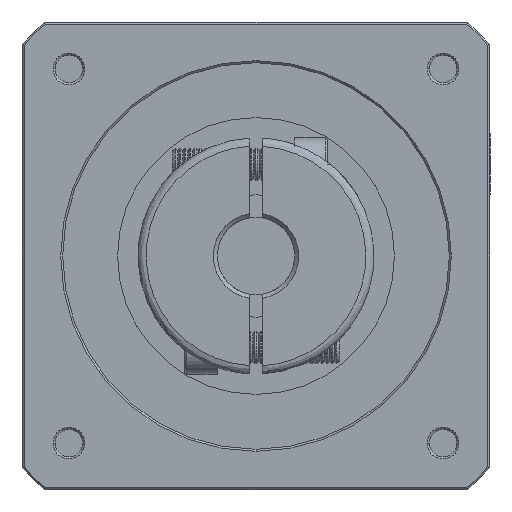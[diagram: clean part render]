
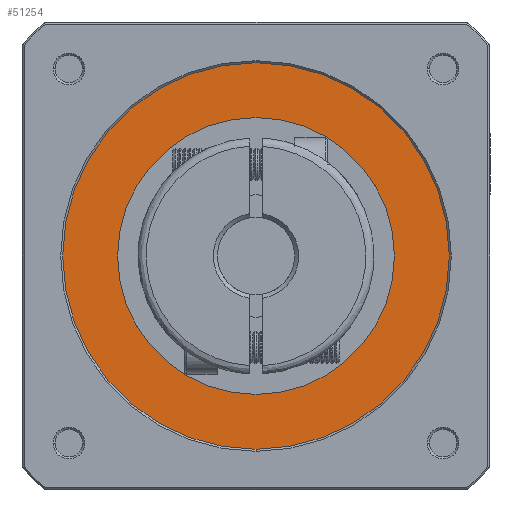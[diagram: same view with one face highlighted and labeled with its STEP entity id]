
A CAD part, front view. The second image highlights one B-rep face of the part: STEP entity #51254.
In plain terms, the highlighted planar face has unit normal (0, 1, 0).
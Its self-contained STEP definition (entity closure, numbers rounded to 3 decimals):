
#790 = CARTESIAN_POINT ( 'NONE',  ( -48.07, -94.111, -48.07 ) ) ;
#3063 = ORIENTED_EDGE ( 'NONE', *, *, #31062, .T. ) ;
#3087 = ORIENTED_EDGE ( 'NONE', *, *, #40494, .T. ) ;
#3142 = VERTEX_POINT ( 'NONE', #56922 ) ;
#5012 = EDGE_CURVE ( 'NONE', #42184, #64210, #67347, .T. ) ;
#6050 = DIRECTION ( 'NONE',  ( 0., 1., 0. ) ) ;
#8480 = FACE_OUTER_BOUND ( 'NONE', #16914, .T. ) ;
#8589 = DIRECTION ( 'NONE',  ( 1., 0., 0. ) ) ;
#10990 = EDGE_CURVE ( 'NONE', #58863, #3142, #35232, .T. ) ;
#13265 = EDGE_LOOP ( 'NONE', ( #3063, #93647 ) ) ;
#13538 = CARTESIAN_POINT ( 'NONE',  ( 0., -94.111, 0. ) ) ;
#16914 = EDGE_LOOP ( 'NONE', ( #3087, #88553 ) ) ;
#18116 = CARTESIAN_POINT ( 'NONE',  ( 0., -94.111, 47.5 ) ) ;
#19125 = AXIS2_PLACEMENT_3D ( 'NONE', #13538, #67128, #21269 ) ;
#19370 = DIRECTION ( 'NONE',  ( 0., -1., 0. ) ) ;
#21269 = DIRECTION ( 'NONE',  ( 0., 0., -1. ) ) ;
#23395 = CIRCLE ( 'NONE', #72199, 47.5 ) ;
#23681 = PLANE ( 'NONE',  #43531 ) ;
#29340 = AXIS2_PLACEMENT_3D ( 'NONE', #65255, #19370, #73052 ) ;
#31062 = EDGE_CURVE ( 'NONE', #3142, #58863, #43362, .T. ) ;
#35232 = CIRCLE ( 'NONE', #41380, 34. ) ;
#36920 = DIRECTION ( 'NONE',  ( 0., -1., 0. ) ) ;
#40494 = EDGE_CURVE ( 'NONE', #64210, #42184, #23395, .T. ) ;
#41380 = AXIS2_PLACEMENT_3D ( 'NONE', #82893, #36920, #90615 ) ;
#42184 = VERTEX_POINT ( 'NONE', #18116 ) ;
#43362 = CIRCLE ( 'NONE', #29340, 34. ) ;
#43531 = AXIS2_PLACEMENT_3D ( 'NONE', #790, #54542, #8589 ) ;
#51254 = ADVANCED_FACE ( 'NONE', ( #67234, #8480 ), #23681, .F. ) ;
#52088 = CARTESIAN_POINT ( 'NONE',  ( 0., -94.111, 0. ) ) ;
#54542 = DIRECTION ( 'NONE',  ( 0., -1., 0. ) ) ;
#56922 = CARTESIAN_POINT ( 'NONE',  ( 0., -94.111, 34. ) ) ;
#58863 = VERTEX_POINT ( 'NONE', #82518 ) ;
#59728 = DIRECTION ( 'NONE',  ( 0., 0., -1. ) ) ;
#64210 = VERTEX_POINT ( 'NONE', #87150 ) ;
#65255 = CARTESIAN_POINT ( 'NONE',  ( 0., -94.111, 0. ) ) ;
#67128 = DIRECTION ( 'NONE',  ( 0., 1., 0. ) ) ;
#67234 = FACE_BOUND ( 'NONE', #13265, .T. ) ;
#67347 = CIRCLE ( 'NONE', #19125, 47.5 ) ;
#72199 = AXIS2_PLACEMENT_3D ( 'NONE', #52088, #6050, #59728 ) ;
#73052 = DIRECTION ( 'NONE',  ( 0., 0., 1. ) ) ;
#82518 = CARTESIAN_POINT ( 'NONE',  ( 0., -94.111, -34. ) ) ;
#82893 = CARTESIAN_POINT ( 'NONE',  ( 0., -94.111, 0. ) ) ;
#87150 = CARTESIAN_POINT ( 'NONE',  ( 0., -94.111, -47.5 ) ) ;
#88553 = ORIENTED_EDGE ( 'NONE', *, *, #5012, .T. ) ;
#90615 = DIRECTION ( 'NONE',  ( 0., 0., 1. ) ) ;
#93647 = ORIENTED_EDGE ( 'NONE', *, *, #10990, .T. ) ;
